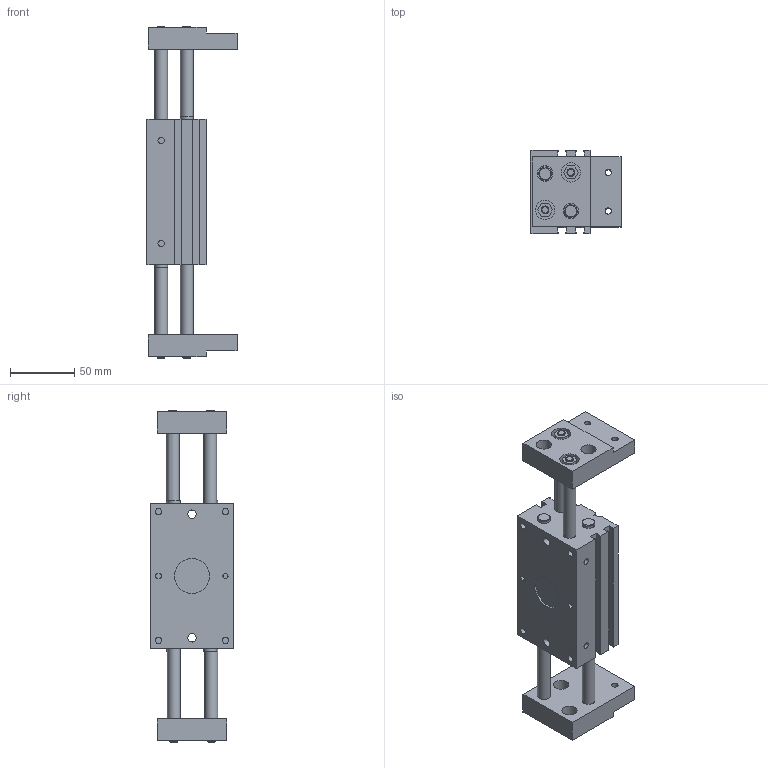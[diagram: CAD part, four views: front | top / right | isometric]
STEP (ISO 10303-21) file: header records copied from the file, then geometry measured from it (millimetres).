
FILE_DESCRIPTION((''),'2;1');
FILE_NAME('I:\Area Tecnica\Documenti\A-Mauro\_Inventor\LIBRERIE\6311\6311_#_D_#\631120D1.stp','2007-02-24T10:54:52',('maffial1'),(''),'Autodesk Inventor 11','Autodesk Inventor 11','');
FILE_SCHEMA(('AUTOMOTIVE_DESIGN { 1 0 10303 214 1 1 1 1 }'));
Length unit declared in the file: millimetre
Products named in the file (3): 631120D1; CORPO Ø20 D1; DITO Ø20 D1
Assembly tree (3 placements, depth 2):
  631120D1
    CORPO Ø20 D1
    DITO Ø20 D1  x2
Bounding box: 70 x 65 x 258 mm (x, y, z)
Volume: 436600.6 mm3; surface area: 102908.2 mm2
Topology: 3 solids, 3 shells, 159 faces, 380 edges, 254 vertices
Faces by surface type: plane 101, bspline 34, cylinder 16, cone 8
Full cylindrical faces by diameter (mm): 4 x1, 6 x4, 10 x8, 27 x1
Entity records: 3542 total; most frequent: CARTESIAN_POINT 857, DIRECTION 502, ORIENTED_EDGE 496, EDGE_CURVE 248, VECTOR 188, LINE 188, EDGE_LOOP 186, VERTEX_POINT 184
